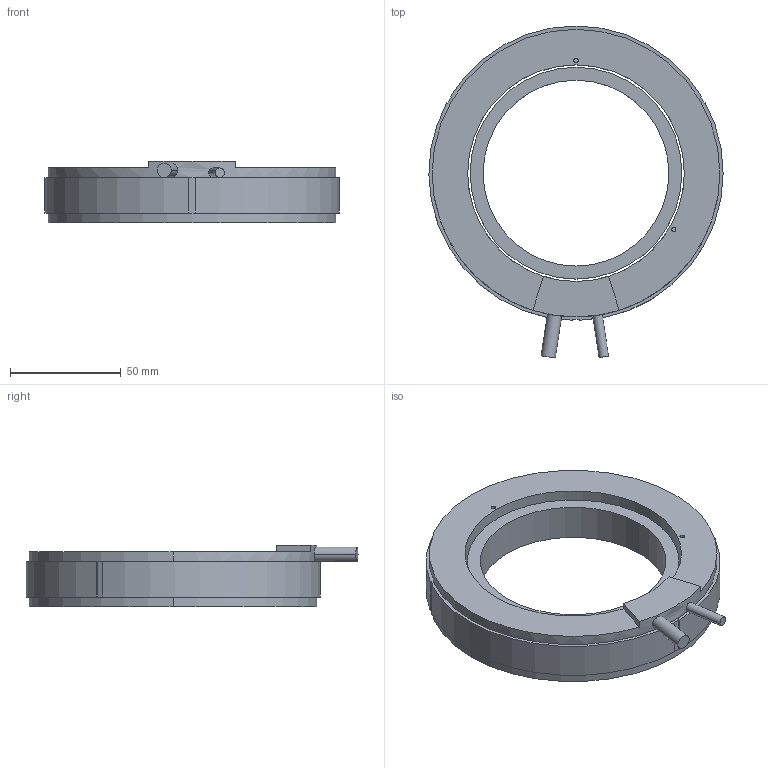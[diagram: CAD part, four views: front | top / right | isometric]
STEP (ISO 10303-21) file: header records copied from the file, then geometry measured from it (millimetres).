
FILE_DESCRIPTION (( 'STEP AP203' ), '1' );
FILE_NAME ('TM133-25 3D.STEP', '2024-01-12T02:51:47', ( '' ), ( '' ), 'SwSTEP 2.0', 'SolidWorks 2021', '' );
FILE_SCHEMA (( 'CONFIG_CONTROL_DESIGN' ));
Length unit declared in the file: millimetre
Products named in the file (1): TM133-25 3D
Bounding box: 133 x 150.04 x 28 mm (x, y, z)
Volume: 183465.7 mm3; surface area: 44467.9 mm2
Topology: 2 solids, 2 shells, 44 faces, 105 edges, 70 vertices
Faces by surface type: cylinder 22, plane 22
Entity records: 1492 total; most frequent: CARTESIAN_POINT 344, DIRECTION 235, ORIENTED_EDGE 210, EDGE_CURVE 105, AXIS2_PLACEMENT_3D 89, VERTEX_POINT 70, VECTOR 57, LINE 57
